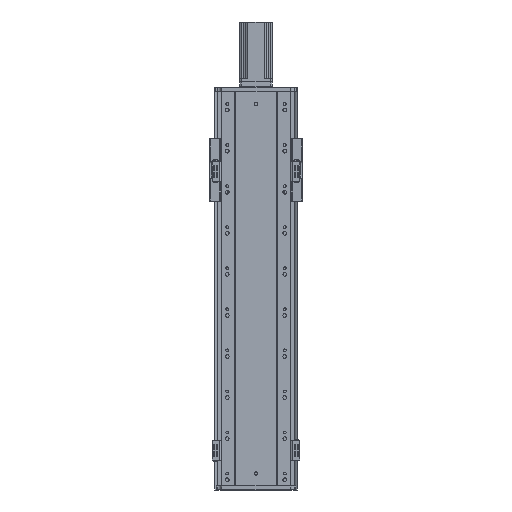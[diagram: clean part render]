
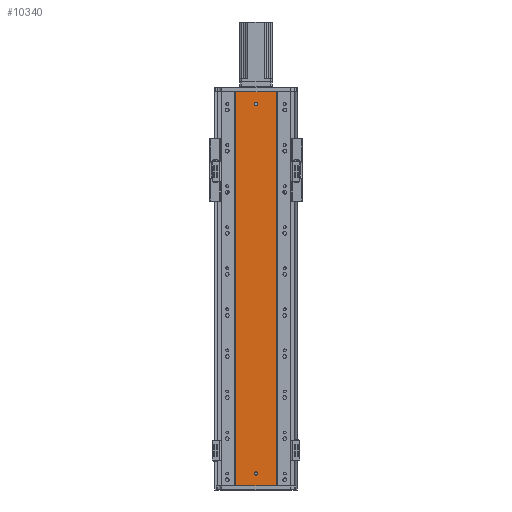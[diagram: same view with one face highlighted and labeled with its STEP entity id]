
A CAD part, front view. The second image highlights one B-rep face of the part: STEP entity #10340.
In plain terms, the highlighted planar face has unit normal (0, -1, 0).
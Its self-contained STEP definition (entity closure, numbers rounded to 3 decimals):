
#1849 = CARTESIAN_POINT ( 'NONE',  ( 136.47, 79.476, 934. ) ) ;
#2489 = CARTESIAN_POINT ( 'NONE',  ( 136.47, 79.476, 34. ) ) ;
#4350 = AXIS2_PLACEMENT_3D ( 'NONE', #16801, #16822, #16816 ) ;
#4358 = AXIS2_PLACEMENT_3D ( 'NONE', #16953, #16932, #16955 ) ;
#7185 = DIRECTION ( 'NONE',  ( 0., 1., 0. ) ) ;
#7191 = CARTESIAN_POINT ( 'NONE',  ( 0., 79.476, 960. ) ) ;
#7202 = PLANE ( 'NONE',  #36033 ) ;
#7208 = DIRECTION ( 'NONE',  ( 0., 0., 1. ) ) ;
#8093 = B_SPLINE_CURVE_WITH_KNOTS ( 'NONE', 3,
 ( #16846, #16863, #16866, #16842 ),
 .UNSPECIFIED., .F., .F.,
 ( 4, 4 ),
 ( 0., 1. ),
 .UNSPECIFIED. ) ;
#8099 = B_SPLINE_CURVE_WITH_KNOTS ( 'NONE', 3,
 ( #16968, #16979, #16999, #16992 ),
 .UNSPECIFIED., .F., .F.,
 ( 4, 4 ),
 ( 0., 1. ),
 .UNSPECIFIED. ) ;
#8427 = EDGE_LOOP ( 'NONE', ( #18785, #18765 ) ) ;
#8443 = EDGE_LOOP ( 'NONE', ( #18762, #18804 ) ) ;
#8480 = EDGE_LOOP ( 'NONE', ( #18782, #18813, #18844, #18779 ) ) ;
#10340 = ADVANCED_FACE ( 'NONE', ( #37109, #37072, #37081 ), #7202, .F. ) ;
#11756 = CARTESIAN_POINT ( 'NONE',  ( 136.47, 79.476, 926. ) ) ;
#12469 = CARTESIAN_POINT ( 'NONE',  ( 86.97, 79.476, 0. ) ) ;
#12476 = CARTESIAN_POINT ( 'NONE',  ( 86.97, 79.476, 960. ) ) ;
#12481 = CARTESIAN_POINT ( 'NONE',  ( 185.97, 79.476, 0. ) ) ;
#12483 = CARTESIAN_POINT ( 'NONE',  ( 185.97, 79.476, 960. ) ) ;
#12776 = VERTEX_POINT ( 'NONE', #39443 ) ;
#12943 = VERTEX_POINT ( 'NONE', #2489 ) ;
#13303 = VERTEX_POINT ( 'NONE', #1849 ) ;
#14416 = EDGE_CURVE ( 'NONE', #13303, #24149, #15876, .T. ) ;
#14472 = EDGE_CURVE ( 'NONE', #12943, #12776, #15921, .T. ) ;
#15876 = CIRCLE ( 'NONE', #22771, 4. ) ;
#15921 = CIRCLE ( 'NONE', #22765, 4. ) ;
#16801 = CARTESIAN_POINT ( 'NONE',  ( 136.47, 79.476, 30. ) ) ;
#16816 = DIRECTION ( 'NONE',  ( 0., 0., -1. ) ) ;
#16822 = DIRECTION ( 'NONE',  ( 0., -1., 0. ) ) ;
#16842 = CARTESIAN_POINT ( 'NONE',  ( 185.97, 79.476, 0. ) ) ;
#16846 = CARTESIAN_POINT ( 'NONE',  ( 185.97, 79.476, 960. ) ) ;
#16863 = CARTESIAN_POINT ( 'NONE',  ( 185.97, 79.476, 640. ) ) ;
#16866 = CARTESIAN_POINT ( 'NONE',  ( 185.97, 79.476, 320. ) ) ;
#16896 = CARTESIAN_POINT ( 'NONE',  ( 0., 79.476, 960. ) ) ;
#16917 = DIRECTION ( 'NONE',  ( 1., 0., 0. ) ) ;
#16932 = DIRECTION ( 'NONE',  ( 0., -1., 0. ) ) ;
#16953 = CARTESIAN_POINT ( 'NONE',  ( 136.47, 79.476, 930. ) ) ;
#16955 = DIRECTION ( 'NONE',  ( 0., 0., -1. ) ) ;
#16968 = CARTESIAN_POINT ( 'NONE',  ( 86.97, 79.476, 960. ) ) ;
#16979 = CARTESIAN_POINT ( 'NONE',  ( 86.97, 79.476, 640. ) ) ;
#16992 = CARTESIAN_POINT ( 'NONE',  ( 86.97, 79.476, 0. ) ) ;
#16999 = CARTESIAN_POINT ( 'NONE',  ( 86.97, 79.476, 320. ) ) ;
#17027 = CARTESIAN_POINT ( 'NONE',  ( 0., 79.476, 0. ) ) ;
#17084 = DIRECTION ( 'NONE',  ( 1., 0., 0. ) ) ;
#18762 = ORIENTED_EDGE ( 'NONE', *, *, #38412, .F. ) ;
#18765 = ORIENTED_EDGE ( 'NONE', *, *, #14472, .F. ) ;
#18779 = ORIENTED_EDGE ( 'NONE', *, *, #38421, .T. ) ;
#18782 = ORIENTED_EDGE ( 'NONE', *, *, #38453, .T. ) ;
#18785 = ORIENTED_EDGE ( 'NONE', *, *, #38353, .F. ) ;
#18804 = ORIENTED_EDGE ( 'NONE', *, *, #14416, .F. ) ;
#18813 = ORIENTED_EDGE ( 'NONE', *, *, #38364, .F. ) ;
#18844 = ORIENTED_EDGE ( 'NONE', *, *, #38398, .F. ) ;
#21364 = CARTESIAN_POINT ( 'NONE',  ( 136.47, 79.476, 930. ) ) ;
#21369 = DIRECTION ( 'NONE',  ( 0., -1., 0. ) ) ;
#21370 = DIRECTION ( 'NONE',  ( 0., 0., -1. ) ) ;
#21452 = CARTESIAN_POINT ( 'NONE',  ( 136.47, 79.476, 30. ) ) ;
#21492 = DIRECTION ( 'NONE',  ( 0., 0., -1. ) ) ;
#21503 = DIRECTION ( 'NONE',  ( 0., -1., 0. ) ) ;
#22765 = AXIS2_PLACEMENT_3D ( 'NONE', #21452, #21503, #21492 ) ;
#22771 = AXIS2_PLACEMENT_3D ( 'NONE', #21364, #21369, #21370 ) ;
#24149 = VERTEX_POINT ( 'NONE', #11756 ) ;
#27143 = CIRCLE ( 'NONE', #4350, 4. ) ;
#27305 = LINE ( 'NONE', #16896, #27307 ) ;
#27307 = VECTOR ( 'NONE', #16917, 1000. ) ;
#27381 = CIRCLE ( 'NONE', #4358, 4. ) ;
#27457 = LINE ( 'NONE', #17027, #27475 ) ;
#27475 = VECTOR ( 'NONE', #17084, 1000. ) ;
#36033 = AXIS2_PLACEMENT_3D ( 'NONE', #7191, #7185, #7208 ) ;
#36330 = VERTEX_POINT ( 'NONE', #12469 ) ;
#36331 = VERTEX_POINT ( 'NONE', #12476 ) ;
#36362 = VERTEX_POINT ( 'NONE', #12481 ) ;
#36429 = VERTEX_POINT ( 'NONE', #12483 ) ;
#37072 = FACE_BOUND ( 'NONE', #8427, .T. ) ;
#37081 = FACE_OUTER_BOUND ( 'NONE', #8480, .T. ) ;
#37109 = FACE_BOUND ( 'NONE', #8443, .T. ) ;
#38353 = EDGE_CURVE ( 'NONE', #12776, #12943, #27143, .T. ) ;
#38364 = EDGE_CURVE ( 'NONE', #36429, #36362, #8093, .T. ) ;
#38398 = EDGE_CURVE ( 'NONE', #36331, #36429, #27305, .T. ) ;
#38412 = EDGE_CURVE ( 'NONE', #24149, #13303, #27381, .T. ) ;
#38421 = EDGE_CURVE ( 'NONE', #36331, #36330, #8099, .T. ) ;
#38453 = EDGE_CURVE ( 'NONE', #36330, #36362, #27457, .T. ) ;
#39443 = CARTESIAN_POINT ( 'NONE',  ( 136.47, 79.476, 26. ) ) ;
